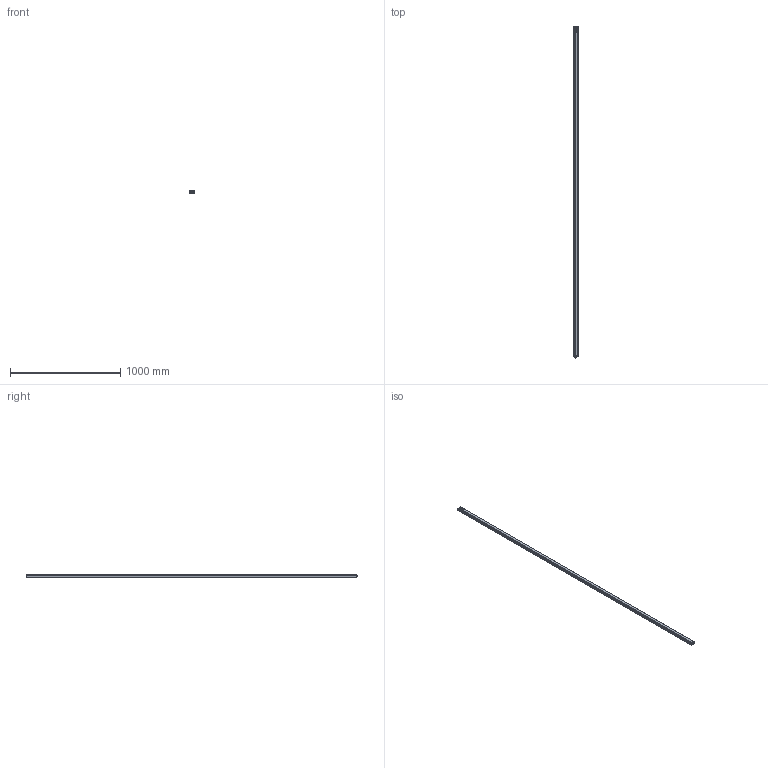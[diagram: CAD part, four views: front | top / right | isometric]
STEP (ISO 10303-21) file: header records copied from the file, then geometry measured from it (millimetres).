
FILE_DESCRIPTION(/* description */ (''),/* implementation_level */ '2;1');
FILE_NAME(/* name */ 'C:\Users\andre\SynologyDrive\Optoscan\Libreria Componenti\00 - Barriere\Polaris sorgente\Polaris_3000_TX.stp',/* time_stamp */ '2021-06-04T11:33:22+02:00',/* author */ ('andre'),/* organization */ (''),/* preprocessor_version */ 'ST-DEVELOPER v18',/* originating_system */ 'Autodesk Inventor 2020',/* authorisation */ '');
FILE_SCHEMA (('AUTOMOTIVE_DESIGN { 1 0 10303 214 3 1 1 }'));
Length unit declared in the file: millimetre
Products named in the file (1): Polaris_3000_TX
Bounding box: 40.5 x 3008.8 x 20.75 mm (x, y, z)
Volume: 589330.2 mm3; surface area: 781690.5 mm2
Topology: 1 solids, 1 shells, 722 faces, 2004 edges, 1288 vertices
Faces by surface type: plane 327, cylinder 203, bspline 115, torus 63, cone 8, sphere 6
Full cylindrical faces by diameter (mm): 1 x8, 2.5 x4, 3 x4, 3.5 x4, 5.5 x4, 8 x1, 10.5 x2, 11.75 x9, 12 x1, 12.3 x2, 14.5 x1, 16.7 x1, 17.5 x1
Entity records: 29853 total; most frequent: CARTESIAN_POINT 11151, ORIENTED_EDGE 3994, DIRECTION 3433, EDGE_CURVE 1997, VERTEX_POINT 1289, AXIS2_PLACEMENT_3D 1187, LINE 1059, VECTOR 1059
